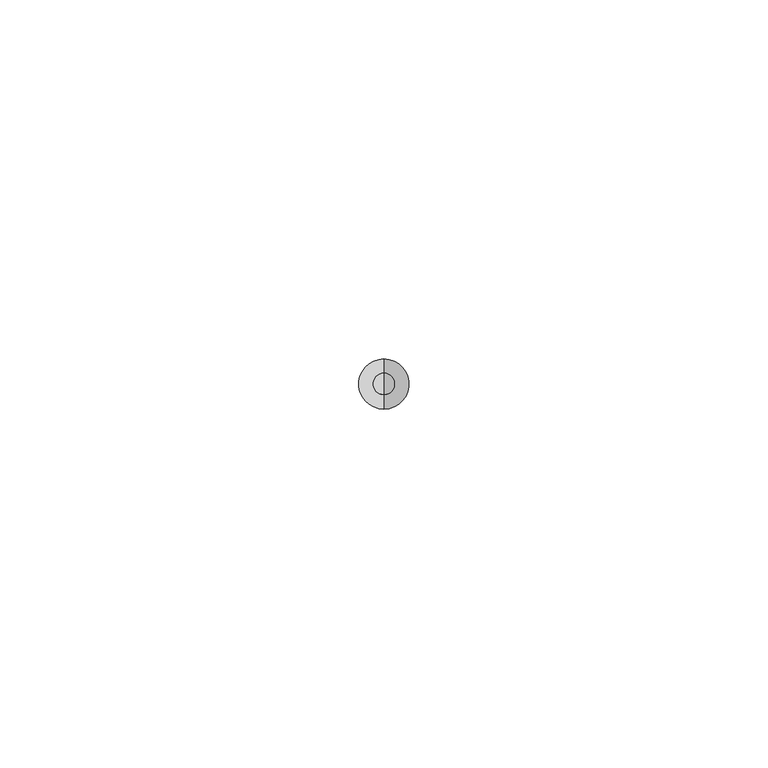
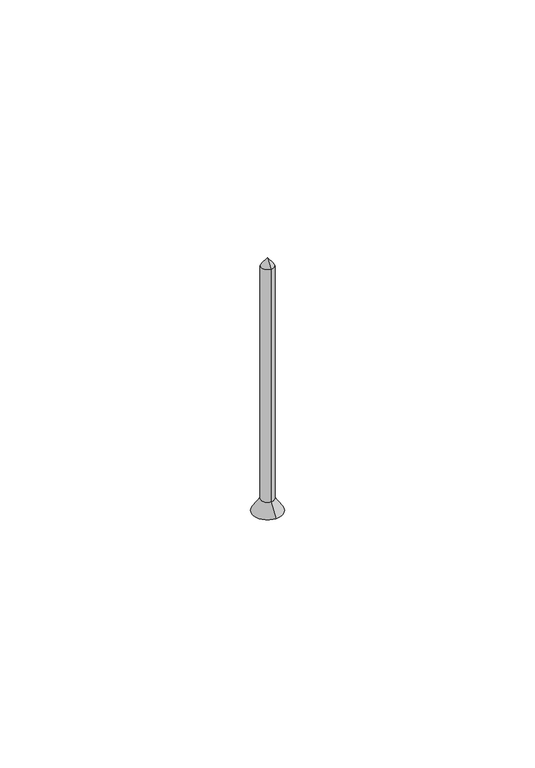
"""IFC4 building model written with IfcOpenShell, lengths in millimetres: furniture geometry, Parafuso de Madeira 60mm x 3mm : Parafuso de Madeira 60mm x 3mm."""

from ifc_helpers import new_model, si_unit, frame, origin, place, context, project, spatial, polyline, circle_curve, source, transform, mapped, element, save
from ifc_brep_helpers import plane_surface, cylinder_surface, revolved_surface, advanced_brep


def furniture_795810f4(model_context):
    return source(origin(), model_context, "Body", "AdvancedBrep", [
        advanced_brep(
        [(0.0, -1.4833876, 61.0), (0.0, 1.5, 61.0), (0.0, 1.5, 3.0), (0.0, -1.4833876, 3.0), (0.0, 0.0083062, 62.988925), (0.0, -3.4833876, 0.0), (0.0, 3.5, 0.0), (0.0, 1.3635651, 0.0), (-0.55, 1.3635651, 0.0), (-0.55, 0.564808, 0.0), (-1.3487558, 0.566611, 0.0), (-1.3512388, -0.5333862, 0.0), (-0.55, -0.5351948, 0.0), (-0.55, -1.3364349, 0.0), (0.0, -1.3364349, 0.0), (0.55, -1.3364349, 0.0), (0.55, -0.5376778, 0.0), (1.3487558, -0.5394809, 0.0), (1.3512388, 0.5605163, 0.0), (0.55, 0.562325, 0.0), (0.55, 1.3635651, 0.0), (0.55, -0.5376778, 2.0), (0.55, -1.3364349, 2.0), (-0.55, -1.3364349, 2.0), (-0.55, -0.5351948, 2.0), (-1.3512388, -0.5333862, 2.0), (-1.3487558, 0.566611, 2.0), (-0.55, 0.564808, 2.0), (-0.55, 1.3635651, 2.0), (0.55, 1.3635651, 2.0), (0.55, 0.562325, 2.0), (1.3512388, 0.5605163, 2.0), (1.3487558, -0.5394809, 2.0)],
        [
            (0, 1, circle_curve(frame((0.0, 0.0083062, 61.0), z_axis=(0.0, 0.0, -1.0), x_axis=(0.0, 1.0, 0.0)), 1.4916938)),
            (1, 2),
            (2, 3, circle_curve(frame((0.0, 0.0083062, 3.0), z_axis=(0.0, 0.0, 1.0), x_axis=(0.0, 1.0, 0.0)), 1.4916938)),
            (3, 0),
            (1, 0, circle_curve(frame((0.0, 0.0083062, 61.0), z_axis=(0.0, 0.0, -1.0), x_axis=(0.0, 1.0, 0.0)), 1.4916938)),
            (3, 2, circle_curve(frame((0.0, 0.0083062, 3.0), z_axis=(0.0, 0.0, 1.0), x_axis=(0.0, 1.0, 0.0)), 1.4916938)),
            (0, 4),
            (4, 1),
            (5, 6, circle_curve(frame((0.0, 0.0083062, 0.0), z_axis=(0.0, 0.0, -1.0), x_axis=(0.0, 1.0, 0.0)), 3.4916938)),
            (6, 7),
            (7, 8),
            (8, 9),
            (9, 10),
            (10, 11),
            (11, 12),
            (12, 13),
            (13, 14),
            (14, 5),
            (6, 5, circle_curve(frame((0.0, 0.0083062, 0.0), z_axis=(0.0, 0.0, -1.0), x_axis=(0.0, 1.0, 0.0)), 3.4916938)),
            (14, 15),
            (15, 16),
            (16, 17),
            (17, 18),
            (18, 19),
            (19, 20),
            (20, 7),
            (2, 6),
            (5, 3),
            (21, 22),
            (22, 23),
            (23, 24),
            (24, 25),
            (25, 26),
            (26, 27),
            (27, 28),
            (28, 29),
            (29, 30),
            (30, 31),
            (31, 32),
            (32, 21),
            (32, 17),
            (16, 21),
            (31, 18),
            (30, 19),
            (29, 20),
            (28, 8),
            (27, 9),
            (26, 10),
            (25, 11),
            (24, 12),
            (23, 13),
            (22, 15),
        ],
        [
            cylinder_surface(frame((0.0, 0.0083062, 63.0), z_axis=(0.0, 0.0, 1.0), x_axis=(0.0, 1.0, 0.0)), 1.4916938),
            revolved_surface(polyline([(0.0, 1.5, 61.0), (0.0, 0.0083062, 62.988925)]), (0.0, 0.0083062, 63.0), (0.0, 0.0, 1.0)),
            plane_surface(frame((0.0, 0.0083062, 0.0), z_axis=(0.0, 0.0, -1.0), x_axis=(0.0, 1.0, 0.0))),
            revolved_surface(polyline([(0.0, 3.5, 0.0), (0.0, 1.5, 3.0)]), (0.0, 0.0083062, 63.0), (0.0, 0.0, 1.0)),
            plane_surface(frame((-1.6512373, -0.532709, 2.0), z_axis=(0.0, 0.0, -1.0), x_axis=(0.9999974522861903, -0.002257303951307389, 0.0))),
            plane_surface(frame((0.55, -0.5376778, 2.0), z_axis=(0.002257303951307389, 0.9999974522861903, 0.0), x_axis=(0.0, 0.0, -1.0))),
            plane_surface(frame((1.3487558, -0.5394809, 2.0), z_axis=(-0.9999974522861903, 0.0022573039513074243, 0.0), x_axis=(0.0, 0.0, -1.0))),
            plane_surface(frame((1.3512388, 0.5605163, 2.0), z_axis=(-0.002257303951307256, -0.9999974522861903, 0.0), x_axis=(0.0, 0.0, -1.0))),
            plane_surface(frame((0.55, 0.562325, 2.0), z_axis=(-1.0, 0.0, 0.0), x_axis=(0.0, 0.0, -1.0))),
            plane_surface(frame((0.55, 1.3635651, 2.0), z_axis=(0.0, -1.0, 0.0), x_axis=(0.0, 0.0, -1.0))),
            plane_surface(frame((-0.55, 1.3635651, 2.0), z_axis=(1.0, 0.0, 0.0), x_axis=(0.0, 0.0, -1.0))),
            plane_surface(frame((-0.55, 0.564808, 2.0), z_axis=(-0.002257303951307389, -0.9999974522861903, 0.0), x_axis=(0.0, 0.0, -1.0))),
            plane_surface(frame((-1.3487558, 0.566611, 2.0), z_axis=(0.9999974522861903, -0.002257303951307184, 0.0), x_axis=(0.0, 0.0, -1.0))),
            plane_surface(frame((-1.3512388, -0.5333862, 2.0), z_axis=(0.0022573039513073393, 0.9999974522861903, 0.0), x_axis=(0.0, 0.0, -1.0))),
            plane_surface(frame((-0.55, -0.5351948, 2.0), z_axis=(1.0, 0.0, 0.0), x_axis=(0.0, 0.0, -1.0))),
            plane_surface(frame((-0.55, -1.3364349, 2.0), z_axis=(0.0, 1.0, 0.0), x_axis=(0.0, 0.0, -1.0))),
            plane_surface(frame((0.55, -1.3364349, 2.0), z_axis=(-1.0, 0.0, 0.0), x_axis=(0.0, 0.0, -1.0))),
        ],
        [
            (0, [[1, 2, 3, 4]]),
            (0, [[-2, 5, -4, 6]]),
            (1, [[-1, 7, 8]]),
            (1, [[-5, -8, -7]]),
            (2, [[9, 10, 11, 12, 13, 14, 15, 16, 17, 18]]),
            (2, [[19, -18, 20, 21, 22, 23, 24, 25, 26, -10]]),
            (3, [[-3, 27, -9, 28]]),
            (3, [[-6, -28, -19, -27]]),
            (4, [[29, 30, 31, 32, 33, 34, 35, 36, 37, 38, 39, 40]]),
            (5, [[-40, 41, -22, 42]]),
            (6, [[-39, 43, -23, -41]]),
            (7, [[-38, 44, -24, -43]]),
            (8, [[-37, 45, -25, -44]]),
            (9, [[-36, 46, -11, -26, -45]]),
            (10, [[-35, 47, -12, -46]]),
            (11, [[-34, 48, -13, -47]]),
            (12, [[-33, 49, -14, -48]]),
            (13, [[-32, 50, -15, -49]]),
            (14, [[-31, 51, -16, -50]]),
            (15, [[-30, 52, -20, -17, -51]]),
            (16, [[-29, -42, -21, -52]]),
        ],
    ),
    ])


if __name__ == "__main__":
    model = new_model("IFC4")
    model_context = context("Model", 3, world=origin())
    ifc_project = project(units=[si_unit("LENGTHUNIT", "METRE", prefix="MILLI")], contexts=[model_context])
    site = spatial("IfcSite", under=ifc_project)
    building = spatial("IfcBuilding", under=site)
    placement = place(None, origin())
    furniture_shape = furniture_795810f4(model_context)
    element("IfcFurniture", 1, ObjectType="Parafuso de Madeira 60mm x 3mm : Parafuso de Madeira 60mm x 3mm", at=placement, inside=building, context=model_context, shape_type="MappedRepresentation", body=[
        mapped(furniture_shape, transform((0.0, 0.0, 0.0), x_axis=(1.0, 0.0, 0.0), y_axis=(0.0, 1.0, 0.0), z_axis=(0.0, 0.0, 1.0))),
    ])
    save(model, "model.ifc")
